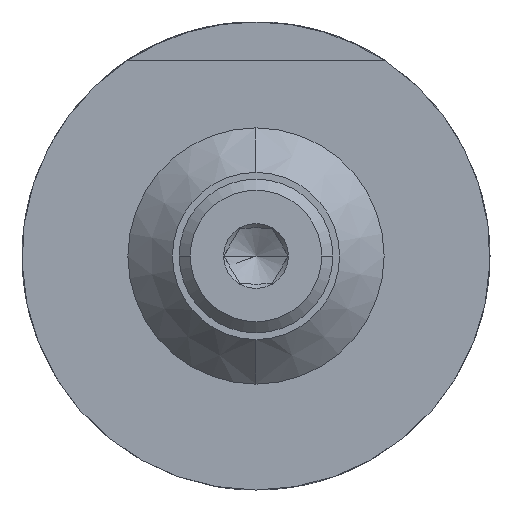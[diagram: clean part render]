
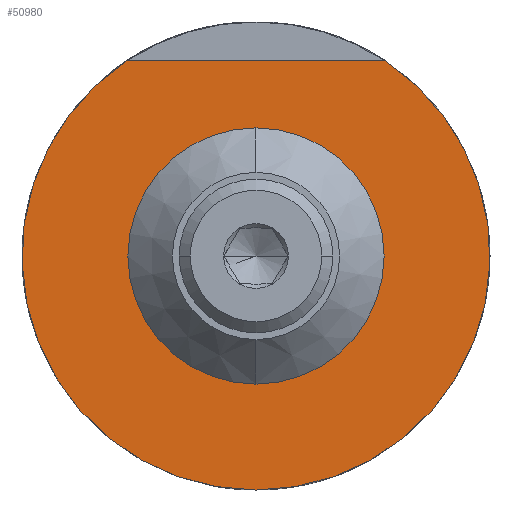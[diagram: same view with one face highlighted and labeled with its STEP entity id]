
A CAD part, left-side view. The second image highlights one B-rep face of the part: STEP entity #50980.
In plain terms, the highlighted planar face has unit normal (-1, 0, 0).
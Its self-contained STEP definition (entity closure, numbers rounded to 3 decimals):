
#4558=DIRECTION('',(0.,-1.,0.));
#4559=VECTOR('',#4558,23.216);
#4560=CARTESIAN_POINT('',(-57.,11.608,17.5));
#4561=LINE('',#4560,#4559);
#8564=CARTESIAN_POINT('',(-57.,0.,0.));
#8565=DIRECTION('',(-1.,0.,0.));
#8566=DIRECTION('',(0.,0.,-1.));
#8567=AXIS2_PLACEMENT_3D('',#8564,#8565,#8566);
#8572=CARTESIAN_POINT('',(-57.,0.,0.));
#8573=DIRECTION('',(-1.,0.,0.));
#8574=DIRECTION('',(0.,0.553,0.833));
#8575=AXIS2_PLACEMENT_3D('',#8572,#8573,#8574);
#8580=CARTESIAN_POINT('',(-57.,0.,0.));
#8581=DIRECTION('',(1.,0.,0.));
#8582=DIRECTION('',(0.,0.,1.));
#8583=AXIS2_PLACEMENT_3D('',#8580,#8581,#8582);
#8588=CARTESIAN_POINT('',(-57.,0.,0.));
#8589=DIRECTION('',(1.,0.,0.));
#8590=DIRECTION('',(0.,0.,-1.));
#8591=AXIS2_PLACEMENT_3D('',#8588,#8589,#8590);
#8596=CARTESIAN_POINT('',(-57.,0.,0.));
#8597=DIRECTION('',(1.,0.,0.));
#8598=DIRECTION('',(0.,-1.,0.));
#8599=AXIS2_PLACEMENT_3D('',#8596,#8597,#8598);
#41728=CARTESIAN_POINT('',(-57.,11.608,17.5));
#41729=CARTESIAN_POINT('',(-57.,-11.608,17.5));
#41730=VERTEX_POINT('',#41728);
#41731=VERTEX_POINT('',#41729);
#42580=CARTESIAN_POINT('',(-57.,0.,-21.));
#42582=VERTEX_POINT('',#42580);
#42705=CARTESIAN_POINT('',(-57.,0.,11.5));
#42707=VERTEX_POINT('',#42705);
#42709=CARTESIAN_POINT('',(-57.,0.,-11.5));
#42711=VERTEX_POINT('',#42709);
#42712=CARTESIAN_POINT('',(-57.,-11.5,0.));
#42713=VERTEX_POINT('',#42712);
#50961=CARTESIAN_POINT('',(-57.,0.,21.));
#50962=DIRECTION('',(-1.,0.,0.));
#50963=DIRECTION('',(0.,-1.,0.));
#50964=AXIS2_PLACEMENT_3D('',#50961,#50962,#50963);
#50965=PLANE('',#50964);
#50966=ORIENTED_EDGE('',*,*,#50265,.T.);
#50968=ORIENTED_EDGE('',*,*,#50967,.F.);
#50969=ORIENTED_EDGE('',*,*,#50294,.F.);
#50970=EDGE_LOOP('',(#50966,#50968,#50969));
#50971=FACE_OUTER_BOUND('',#50970,.F.);
#50973=ORIENTED_EDGE('',*,*,#50972,.F.);
#50975=ORIENTED_EDGE('',*,*,#50974,.F.);
#50977=ORIENTED_EDGE('',*,*,#50976,.F.);
#50978=EDGE_LOOP('',(#50973,#50975,#50977));
#50979=FACE_BOUND('',#50978,.F.);
#8568=CIRCLE('',#8567,21.);
#8576=CIRCLE('',#8575,21.);
#8584=CIRCLE('',#8583,11.5);
#8592=CIRCLE('',#8591,11.5);
#8600=CIRCLE('',#8599,11.5);
#50265=EDGE_CURVE('',#41730,#41731,#4561,.T.);
#50294=EDGE_CURVE('',#41730,#42582,#8576,.T.);
#50967=EDGE_CURVE('',#42582,#41731,#8568,.T.);
#50972=EDGE_CURVE('',#42707,#42713,#8584,.T.);
#50974=EDGE_CURVE('',#42711,#42707,#8592,.T.);
#50976=EDGE_CURVE('',#42713,#42711,#8600,.T.);
#50980=ADVANCED_FACE('',(#50971,#50979),#50965,.T.);
